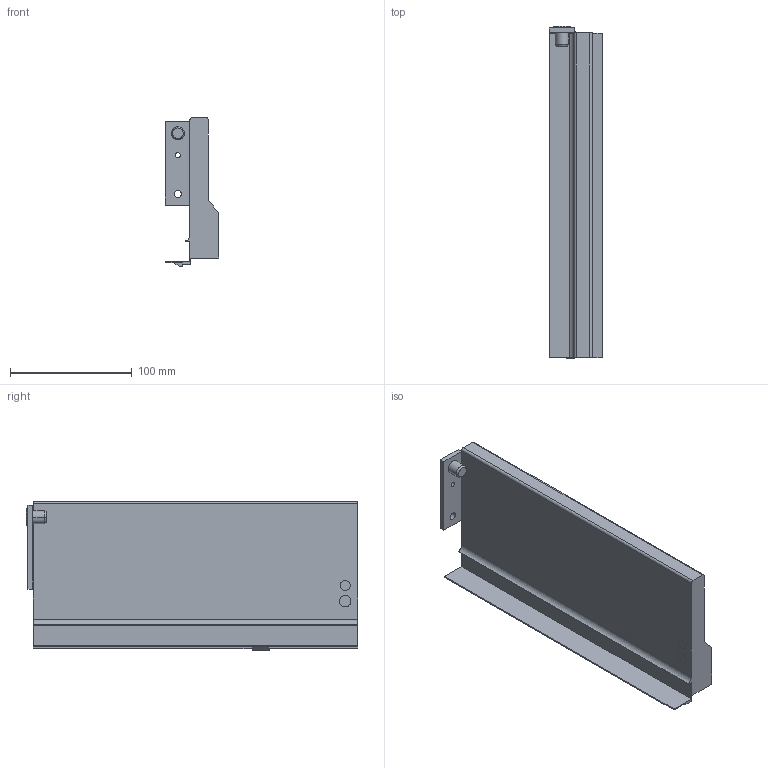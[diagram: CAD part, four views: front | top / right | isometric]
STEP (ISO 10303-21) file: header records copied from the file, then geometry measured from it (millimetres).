
FILE_DESCRIPTION (( 'STEP AP214' ), '1' );
FILE_NAME ('_IMOS_NOVA-Pro_Dekor-H122_CL_NL270_RE.step', '2010-07-06T09:35:45', ( 'grass' ), ( '' ), 'SwSTEP 2.0', 'SolidWorks 2009', '' );
FILE_SCHEMA (( 'AUTOMOTIVE_DESIGN' ));
Length unit declared in the file: millimetre
Products named in the file (1): _IMOS_NOVA-Pro_Dekor-H122_CL_NL270_RE
Bounding box: 44.3 x 272.7 x 122.49 mm (x, y, z)
Volume: 375566.3 mm3; surface area: 114114.8 mm2
Topology: 1 solids, 1 shells, 73 faces, 194 edges, 128 vertices
Faces by surface type: plane 42, cylinder 26, cone 4, bspline 1
Entity records: 2325 total; most frequent: CARTESIAN_POINT 417, DIRECTION 394, ORIENTED_EDGE 388, EDGE_CURVE 194, LINE 136, VECTOR 136, AXIS2_PLACEMENT_3D 129, VERTEX_POINT 128
